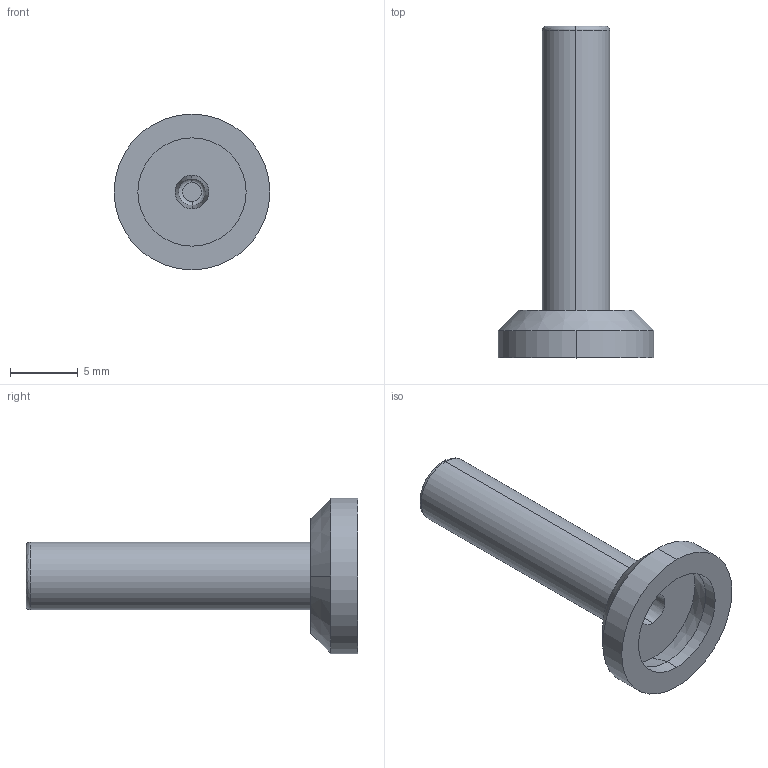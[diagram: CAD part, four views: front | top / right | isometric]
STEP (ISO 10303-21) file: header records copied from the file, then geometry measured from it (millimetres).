
FILE_DESCRIPTION (( 'STEP AP214' ), '1' );
FILE_NAME ('086100031X3ROA.STEP', '2013-02-26T07:13:12', ( '' ), ( '' ), 'SwSTEP 2.0', 'SolidWorks 2012', '' );
FILE_SCHEMA (( 'AUTOMOTIVE_DESIGN' ));
Length unit declared in the file: millimetre
Products named in the file (1): 086100031X3ROA
Bounding box: 11.5 x 24.5 x 11.5 mm (x, y, z)
Volume: 484.3 mm3; surface area: 866.7 mm2
Topology: 1 solids, 1 shells, 26 faces, 52 edges, 32 vertices
Faces by surface type: cone 8, cylinder 6, bspline 6, plane 6
Entity records: 1022 total; most frequent: CARTESIAN_POINT 476, DIRECTION 108, ORIENTED_EDGE 104, EDGE_CURVE 52, AXIS2_PLACEMENT_3D 47, VERTEX_POINT 32, EDGE_LOOP 30, ADVANCED_FACE 26
